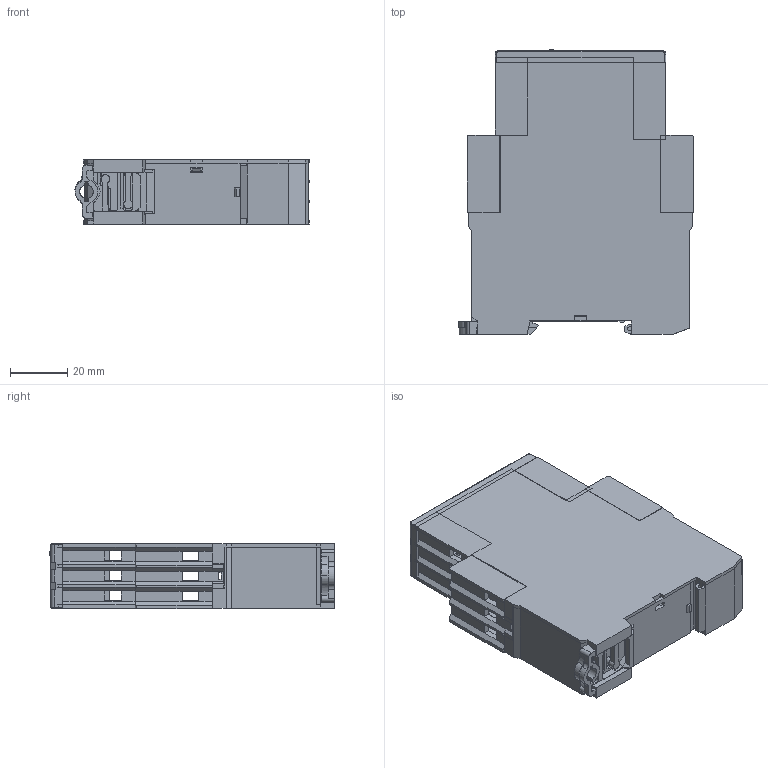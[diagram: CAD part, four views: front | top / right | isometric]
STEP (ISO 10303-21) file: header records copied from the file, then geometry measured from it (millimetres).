
FILE_DESCRIPTION(('STEP AP214'),'2;1');
FILE_NAME('KFT200_280110-skin-OK.stp','2010-02-17T16:54:10',(''),(''),'2007.1.106','THINKDESIGN','');
FILE_SCHEMA(('AUTOMOTIVE_DESIGN'));
Products named in the file (1): None
Bounding box: 81.74 x 99.46 x 22.8 mm (x, y, z)
Surface area: 31785 mm2 (no closed solid volume)
Topology: 0 solids, 0 shells, 978 faces, 5540 edges, 5540 vertices
Faces by surface type: plane 654, cylinder 217, bspline 107
Entity records: 57171 total; most frequent: CARTESIAN_POINT 18984, DIRECTION 6514, COMPOSITE_CURVE_SEGMENT 5540, TRIMMED_CURVE 4308, VECTOR 3844, LINE 3844, AXIS2_PLACEMENT_3D 1335, OUTER_BOUNDARY_CURVE 978
